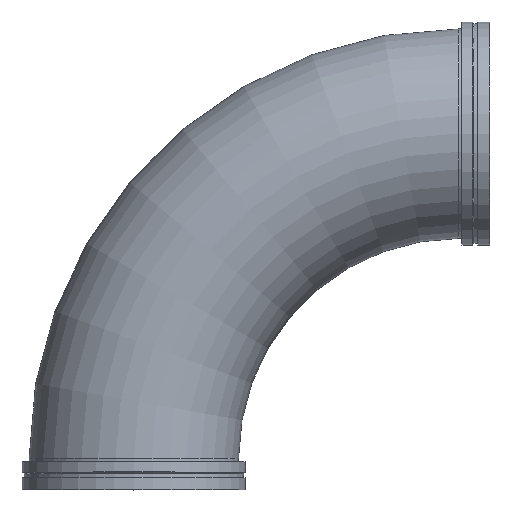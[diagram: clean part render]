
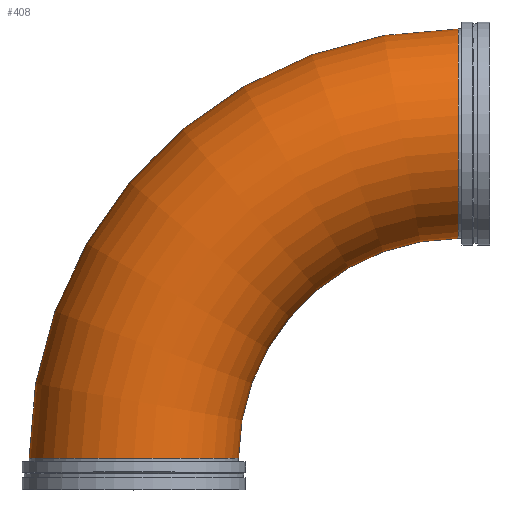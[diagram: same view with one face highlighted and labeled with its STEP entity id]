
A CAD part, top view. The second image highlights one B-rep face of the part: STEP entity #408.
In plain terms, the highlighted toroidal (fillet/blend) face has major radius 1181.1 mm and minor radius 381 mm.
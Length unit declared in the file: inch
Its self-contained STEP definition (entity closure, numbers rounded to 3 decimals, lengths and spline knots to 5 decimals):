
#46=TOROIDAL_SURFACE('',#484,46.5,15.);
#105=FACE_OUTER_BOUND('',#129,.T.);
#129=EDGE_LOOP('',(#346,#347,#348,#349,#350,#351));
#169=CIRCLE('',#482,15.);
#170=CIRCLE('',#483,15.);
#171=CIRCLE('',#485,31.5);
#172=CIRCLE('',#486,15.);
#173=CIRCLE('',#487,15.);
#207=VERTEX_POINT('',#756);
#208=VERTEX_POINT('',#758);
#209=VERTEX_POINT('',#762);
#210=VERTEX_POINT('',#764);
#256=EDGE_CURVE('',#207,#208,#169,.T.);
#257=EDGE_CURVE('',#208,#207,#170,.T.);
#258=EDGE_CURVE('',#208,#209,#171,.T.);
#259=EDGE_CURVE('',#209,#210,#172,.T.);
#260=EDGE_CURVE('',#210,#209,#173,.T.);
#346=ORIENTED_EDGE('',*,*,#256,.F.);
#347=ORIENTED_EDGE('',*,*,#257,.F.);
#348=ORIENTED_EDGE('',*,*,#258,.T.);
#349=ORIENTED_EDGE('',*,*,#259,.T.);
#350=ORIENTED_EDGE('',*,*,#260,.T.);
#351=ORIENTED_EDGE('',*,*,#258,.F.);
#408=ADVANCED_FACE('',(#105),#46,.T.);
#482=AXIS2_PLACEMENT_3D('',#759,#617,#618);
#483=AXIS2_PLACEMENT_3D('',#760,#619,#620);
#484=AXIS2_PLACEMENT_3D('',#761,#621,#622);
#485=AXIS2_PLACEMENT_3D('',#763,#623,#624);
#486=AXIS2_PLACEMENT_3D('',#765,#625,#626);
#487=AXIS2_PLACEMENT_3D('',#766,#627,#628);
#617=DIRECTION('center_axis',(1.,0.,0.));
#618=DIRECTION('ref_axis',(0.,-1.,0.));
#619=DIRECTION('center_axis',(1.,0.,0.));
#620=DIRECTION('ref_axis',(0.,-1.,0.));
#621=DIRECTION('center_axis',(0.,0.,-1.));
#622=DIRECTION('ref_axis',(-1.,0.,0.));
#623=DIRECTION('center_axis',(0.,0.,1.));
#624=DIRECTION('ref_axis',(-1.,0.,0.));
#625=DIRECTION('center_axis',(0.,1.,0.));
#626=DIRECTION('ref_axis',(1.,0.,0.));
#627=DIRECTION('center_axis',(0.,1.,0.));
#628=DIRECTION('ref_axis',(1.,0.,0.));
#756=CARTESIAN_POINT('',(46.5,66.,0.));
#758=CARTESIAN_POINT('',(46.5,36.,0.));
#759=CARTESIAN_POINT('Origin',(46.5,51.,0.));
#760=CARTESIAN_POINT('Origin',(46.5,51.,0.));
#761=CARTESIAN_POINT('Origin',(46.5,4.5,0.));
#762=CARTESIAN_POINT('',(15.,4.5,0.));
#763=CARTESIAN_POINT('Origin',(46.5,4.5,0.));
#764=CARTESIAN_POINT('',(-15.,4.5,0.));
#765=CARTESIAN_POINT('Origin',(0.,4.5,0.));
#766=CARTESIAN_POINT('Origin',(0.,4.5,0.));
